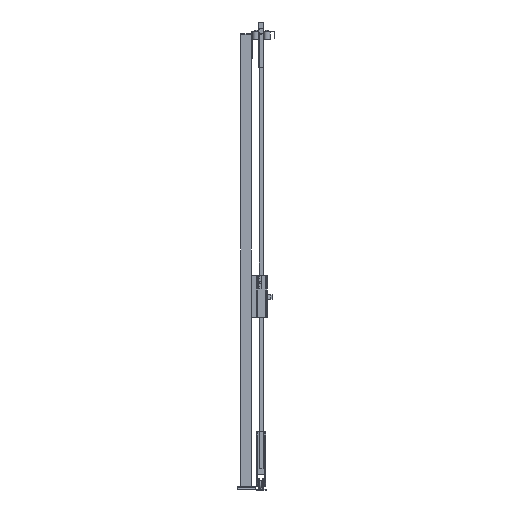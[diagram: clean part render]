
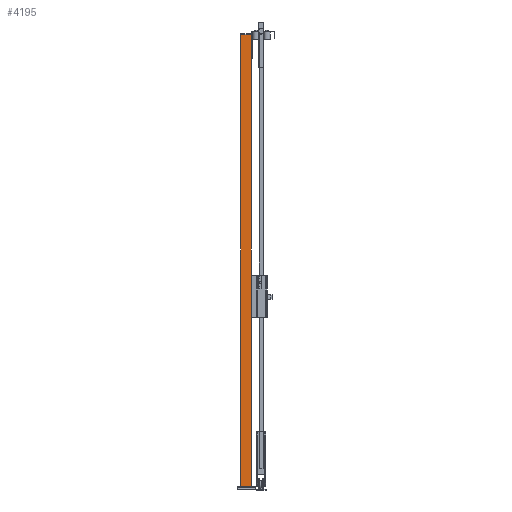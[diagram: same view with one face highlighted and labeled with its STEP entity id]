
A CAD part, left-side view. The second image highlights one B-rep face of the part: STEP entity #4195.
In plain terms, the highlighted planar face has unit normal (-1, 0, 0) as drawn and (0, 1, 0) by its records, which use the part's own axes.
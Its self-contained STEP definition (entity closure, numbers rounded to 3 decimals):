
#496=FACE_OUTER_BOUND('',#799,.T.);
#799=EDGE_LOOP('',(#2624,#2625,#2626,#2627));
#1139=VERTEX_POINT('',#8810);
#1140=VERTEX_POINT('',#8812);
#1142=VERTEX_POINT('',#8818);
#1145=VERTEX_POINT('',#8823);
#1733=EDGE_CURVE('',#1139,#1140,#4924,.T.);
#1739=EDGE_CURVE('',#1145,#1142,#4930,.T.);
#1742=EDGE_CURVE('',#1140,#1145,#4933,.T.);
#1743=EDGE_CURVE('',#1139,#1142,#4934,.T.);
#2624=ORIENTED_EDGE('',*,*,#1743,.T.);
#2625=ORIENTED_EDGE('',*,*,#1739,.F.);
#2626=ORIENTED_EDGE('',*,*,#1742,.F.);
#2627=ORIENTED_EDGE('',*,*,#1733,.F.);
#3942=PLANE('',#6268);
#4195=ADVANCED_FACE('',(#496),#3942,.F.);
#4924=LINE('',#8813,#5644);
#4930=LINE('',#8825,#5650);
#4933=LINE('',#8830,#5653);
#4934=LINE('',#8832,#5654);
#5644=VECTOR('',#6950,1.);
#5650=VECTOR('',#6958,1.);
#5653=VECTOR('',#6965,1.);
#5654=VECTOR('',#6968,1.);
#6268=AXIS2_PLACEMENT_3D('',#8831,#6966,#6967);
#6950=DIRECTION('',(-1.,0.,0.));
#6958=DIRECTION('',(1.,0.,0.));
#6965=DIRECTION('',(0.,0.,-1.));
#6966=DIRECTION('center_axis',(0.,-1.,0.));
#6967=DIRECTION('ref_axis',(0.,0.,-1.));
#6968=DIRECTION('',(0.,0.,-1.));
#8810=CARTESIAN_POINT('',(30.,30.,2520.));
#8812=CARTESIAN_POINT('',(-30.,30.,2520.));
#8813=CARTESIAN_POINT('',(0.,30.,2520.));
#8818=CARTESIAN_POINT('',(30.,30.,20.));
#8823=CARTESIAN_POINT('',(-30.,30.,20.));
#8825=CARTESIAN_POINT('',(0.,30.,20.));
#8830=CARTESIAN_POINT('',(-30.,30.,1270.));
#8831=CARTESIAN_POINT('Origin',(0.,30.,
1270.));
#8832=CARTESIAN_POINT('',(30.,30.,1270.));
